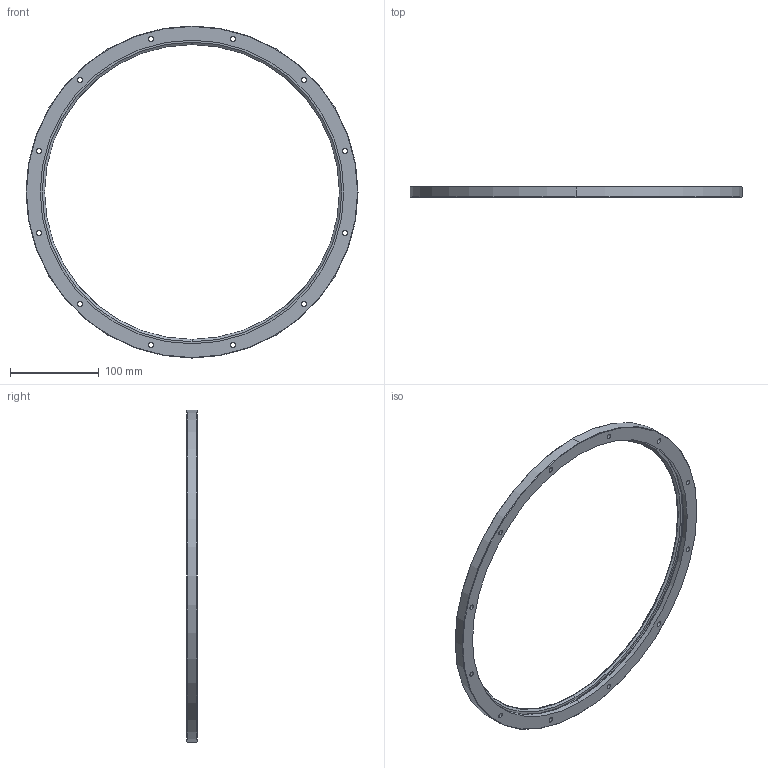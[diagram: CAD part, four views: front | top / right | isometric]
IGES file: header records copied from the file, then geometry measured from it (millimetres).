
Start section: 3D InterOp IGES (v. 2020 1.0.1), Spatial Corp. Copyright (c) 1999-2017.
Global section: file name: ris_374_r360.igs; native system: Spatial Corp.; preprocessor: 3D InterOp ACIS/IGES; author: TraceParts; organization: TraceParts S.A.; date: 20210519.130245; units: millimetre
Bounding box: 374 x 12.25 x 374 mm (x, y, z)
Surface area: 74449.1 mm2 (no closed solid volume)
Topology: 0 solids, 0 shells, 82 faces, 376 edges, 376 vertices
Faces by surface type: revolution 66, extrusion 16
